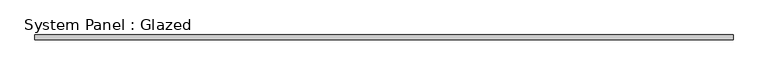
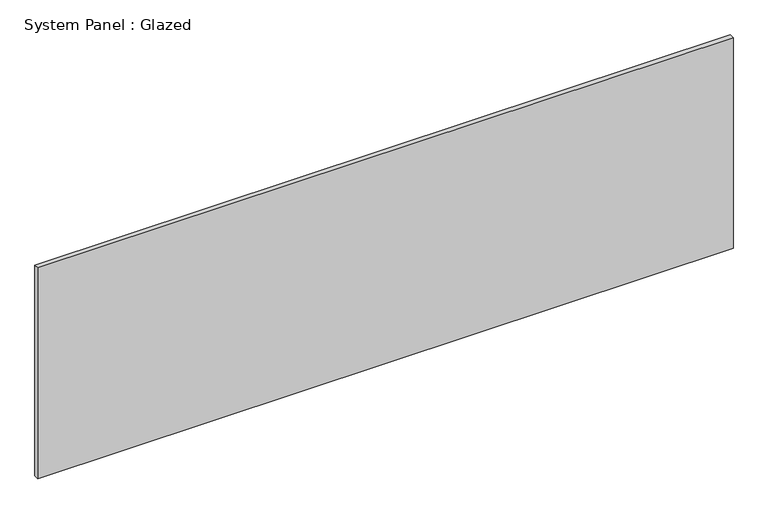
"""IFC4 building model written with IfcOpenShell, lengths in millimetres: plate geometry, System Panel : Glazed."""

from ifc_helpers import new_model, si_unit, origin, origin_with_axes, place, context, project, spatial, polyline, outline, extrude, source, transform, mapped, element, save


def system_panel_glazed_5566c609(model_context):
    return source(origin(), model_context, "Body", "SweptSolid", [
        extrude(outline(polyline([(1794.1857925, 24.5), (-1794.1857925, 24.5), (-1794.1857925, 49.5), (1794.1857925, 49.5), (1794.1857925, 24.5)])), origin_with_axes(), (0.0, 0.0, 1.0), 1150.0),
    ])


if __name__ == "__main__":
    model = new_model("IFC4")
    model_context = context("Model", 3, world=origin())
    ifc_project = project(units=[si_unit("LENGTHUNIT", "METRE", prefix="MILLI")], contexts=[model_context])
    site = spatial("IfcSite", under=ifc_project)
    building = spatial("IfcBuilding", under=site)
    placement = place(None, origin())
    system_panel_glazed_shape = system_panel_glazed_5566c609(model_context)
    element("IfcPlate", 1, ObjectType="System Panel : Glazed", at=placement, inside=building, context=model_context, shape_type="MappedRepresentation", body=[
        mapped(system_panel_glazed_shape, transform((0.0, 0.0, 0.0), x_axis=(1.0, 0.0, 0.0), y_axis=(0.0, 1.0, 0.0), z_axis=(0.0, 0.0, 1.0))),
    ])
    save(model, "model.ifc")
